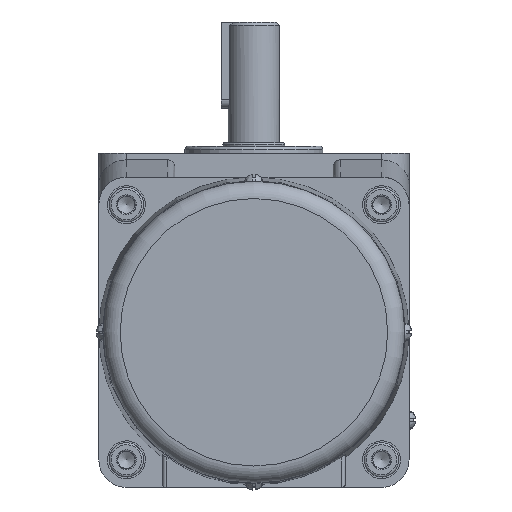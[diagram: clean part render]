
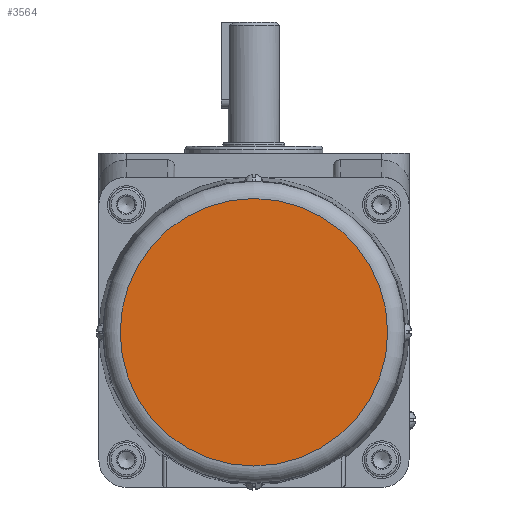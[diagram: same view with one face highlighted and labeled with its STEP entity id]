
A CAD part, front view. The second image highlights one B-rep face of the part: STEP entity #3564.
In plain terms, the highlighted planar face has unit normal (0, -1, 0).
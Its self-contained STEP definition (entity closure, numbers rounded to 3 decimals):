
#234=FACE_OUTER_BOUND('',#4832,.T.);
#3564=ADVANCED_FACE('',(#234),#4155,.F.);
#4155=PLANE('',#11219);
#4832=EDGE_LOOP('',(#6029));
#6029=ORIENTED_EDGE('',*,*,#9228,.T.);
#8289=VERTEX_POINT('',#16287);
#9228=EDGE_CURVE('',#8289,#8289,#10382,.T.);
#10382=CIRCLE('',#11190,38.8);
#11190=AXIS2_PLACEMENT_3D('',#16286,#12637,#12638);
#11219=AXIS2_PLACEMENT_3D('',#16390,#12717,#12718);
#12637=DIRECTION('',(0.,-1.,0.));
#12638=DIRECTION('',(1.,0.,0.));
#12717=DIRECTION('',(0.,1.,0.));
#12718=DIRECTION('',(1.,0.,0.));
#16286=CARTESIAN_POINT('',(0.,-246.5,-52.));
#16287=CARTESIAN_POINT('',(38.8,-246.5,-52.));
#16390=CARTESIAN_POINT('',(0.,-246.5,-95.8));
